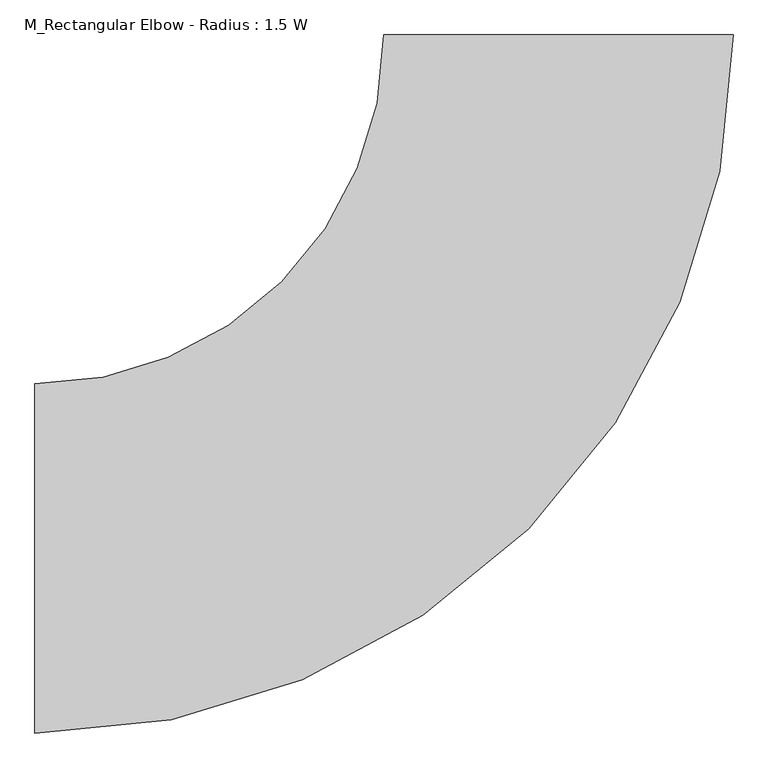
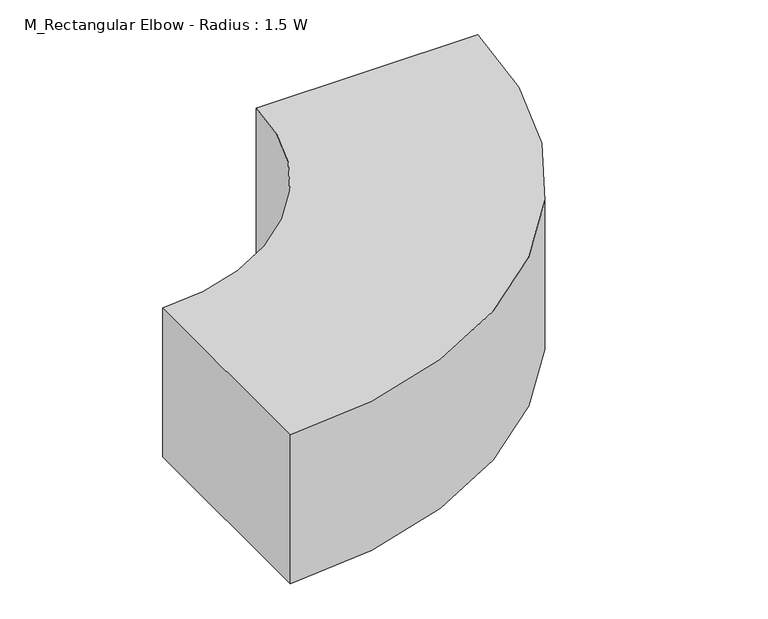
"""IFC4 building model written with IfcOpenShell, lengths in millimetres: duct fitting geometry, M_Rectangular Elbow - Radius : 1.5 W."""

from ifc_helpers import new_model, si_unit, point, frame, frame_2d, origin, place, context, project, spatial, polyline, circle_curve, trimmed, segment, composite_curve, outline, extrude, source, transform, mapped, element, save


def m_rectangular_elbow_radius_1_5_w_36afd085(model_context):
    return source(origin(), model_context, "Body", "SweptSolid", [
        extrude(outline(composite_curve([segment(trimmed(circle_curve(frame_2d((-937.5, 937.5)), 1250.0), [point((312.5, 937.5))], [point((-937.5, -312.5))], False, "CARTESIAN"), True, "CONTINUOUS"), segment(polyline([(-937.5, -312.5), (-937.5, 312.5)]), True, "CONTINUOUS"), segment(trimmed(circle_curve(frame_2d((-937.5, 937.5)), 625.0), [point((-937.5, 312.5))], [point((-312.5, 937.5))], True, "CARTESIAN"), True, "CONTINUOUS"), segment(polyline([(-312.5, 937.5), (312.5, 937.5)]), True, "CONTINUOUS")], self_intersect=False)), frame((0.0, 0.0, -222.5), z_axis=(0.0, 0.0, 1.0), x_axis=(1.0, 0.0, 0.0)), (0.0, 0.0, 1.0), 445.0),
    ])


if __name__ == "__main__":
    model = new_model("IFC4")
    model_context = context("Model", 3, world=origin())
    ifc_project = project(units=[si_unit("LENGTHUNIT", "METRE", prefix="MILLI")], contexts=[model_context])
    site = spatial("IfcSite", under=ifc_project)
    building = spatial("IfcBuilding", under=site)
    placement = place(None, origin())
    m_rectangular_elbow_radius_1_5_w_shape = m_rectangular_elbow_radius_1_5_w_36afd085(model_context)
    element("IfcDuctFitting", 1, ObjectType="M_Rectangular Elbow - Radius : 1.5 W", at=placement, inside=building, context=model_context, shape_type="MappedRepresentation", body=[
        mapped(m_rectangular_elbow_radius_1_5_w_shape, transform((0.0, 0.0, 0.0), x_axis=(1.0, 0.0, 0.0), y_axis=(0.0, 1.0, 0.0), z_axis=(0.0, 0.0, 1.0))),
    ])
    save(model, "model.ifc")
